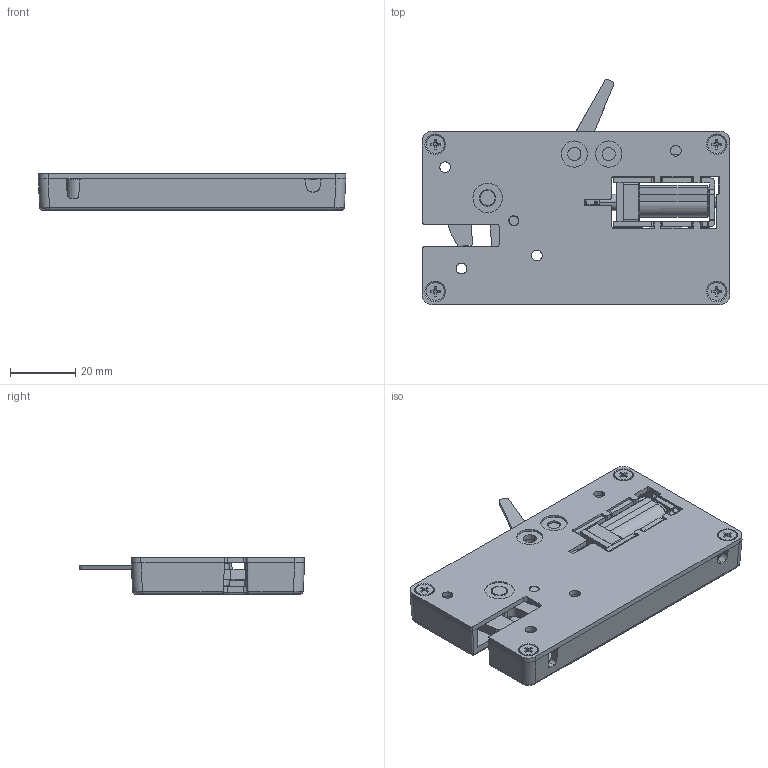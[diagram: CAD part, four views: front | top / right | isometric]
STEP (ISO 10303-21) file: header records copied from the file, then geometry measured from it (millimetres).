
FILE_DESCRIPTION (( 'STEP AP203' ), '1' );
FILE_NAME ('NL0710.STEP', '2025-07-31T02:10:19', ( '' ), ( '' ), 'SwSTEP 2.0', 'SolidWorks 2024', '' );
FILE_SCHEMA (( 'CONFIG_CONTROL_DESIGN' ));
Products named in the file (1): NL0710
Bounding box: 94 x 68.82 x 11.2 mm (x, y, z)
Volume: 28273.3 mm3; surface area: 29520.2 mm2
Topology: 1 solids, 9 shells, 1272 faces, 3353 edges, 2149 vertices
Faces by surface type: plane 672, cylinder 342, cone 129, bspline 89, torus 40
Entity records: 46569 total; most frequent: CARTESIAN_POINT 15192, ORIENTED_EDGE 6682, DIRECTION 6311, EDGE_CURVE 3341, VERTEX_POINT 2149, AXIS2_PLACEMENT_3D 2109, LINE 2093, VECTOR 2093
